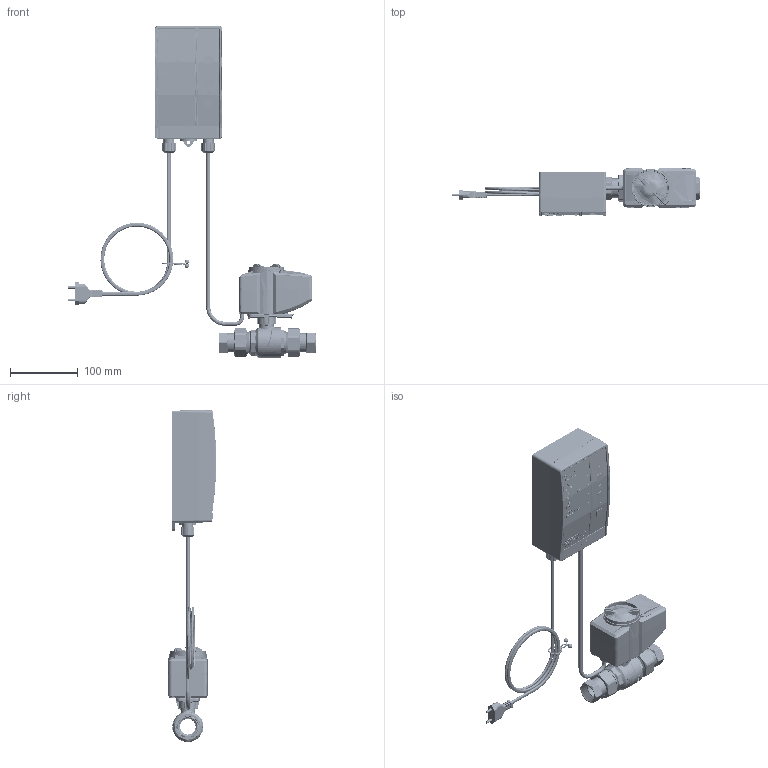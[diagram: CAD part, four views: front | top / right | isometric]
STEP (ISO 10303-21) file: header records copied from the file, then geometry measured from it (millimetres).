
FILE_DESCRIPTION (( 'STEP AP214' ), '1' );
FILE_NAME ('WATERCONTROL_System_detekcji_wycieku_42570_0_3D_AFRISO.STEP', '2024-03-18T08:47:16', ( '' ), ( '' ), 'SwSTEP 2.0', 'SolidWorks 2022', '' );
FILE_SCHEMA (( 'AUTOMOTIVE_DESIGN' ));
Length unit declared in the file: millimetre
Products named in the file (83): Tasten; Kugelhahn G1a_a WaterControl 01_05 09 000046; 18 05 000003_Folientastatur Signalteil selbstkl.; 3404-Prolunga-1DFx34F-Lavorata-L1605408; Teil_4; Teil_11; A; Flachstecker; ISO 7049-ST 2.2x4.5-C-H_907981 2245_0_2; Linsenkopfschraube _709 000 0006_0; Sfera-300-1-Lavorata-33208006; O-ring-3112-EPDM-N01C; Blindverschraubung NG 20 PS_685 000 0053; Frontschild WaterControl 01_09 03 010005_0; 05 09 000117_Verschraubung G3_4i x G1_X_DCM_2; Dichtring ID 9x11,8x7,5 f. PG-Einsatz M16x1,5_760 000 0113_0; 09 01 000002_Geh_X_E4use Oberteil Signalteil; Teil_7; Teil; _X_DCberwurfmutter M16x1,5_09 01 000012_0; Teil_8; Teil_12; ISO 7049-ST 2.2x4.5-C-H_907981 2245_0_4; Dichtring ID 9x11,5x7,5 f. PG-Einsatz M16x1,5_760 000 0113_0; Teil_16; frontschildbedruckung_Baugruppe; Teil_2; Asta-Nuova-Preassemblata-OR-2031-HNBR; AFRISO-LOGO_NEU_2012; 760 000 0163_Flachdichtung _X_F830x23x2 F 391; Teil_9; Klemmk_X_F6rper f. Kabelverschraubung M16x1,5_685 000 0047_0; Teil_13; LINSENBLECHSCHRAUBEN_2,2; 09 01 000010_Blende LAG 2006 mit AFRISO-Logo; Kabel; Corpo-Watchdog-1M-att-Motore-Lavorato; O-ring-2031-HNBR-52905700_2; WATERCONTROL_System_detekcji_wycieku_42570_0_3D_AFRISO; Teil_14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
Assembly tree (82 placements, depth 6):
  WATERCONTROL_System_detekcji_wycieku_42570_0_3D_AFRISO
    42570_WaterControl 01.1 G3_4
      _X_DCberwurfmutter M16x1,5_09 01 000012_0
      2x _X_DCberwurfmutter M16x1,5_09 01 000012_0
      Klemmk_X_F6rper f. Kabelverschraubung M16x1,5_685 000 0047_0
        Klemmk_X_F6rper f. Kabelverschraubung M16x1,5_685 000 0047_0
        Dichtring ID 9x11,8x7,5 f. PG-Einsatz M16x1,5_760 000 0113_0
      Klemmk_X_F6rper f. Kabelverschraubung M16x1,5_685 000 0047_0_2
        Klemmk_X_F6rper f. Kabelverschraubung M16x1,5_685 000 0047_0_2
        Dichtring ID 9x11,5x7,5 f. PG-Einsatz M16x1,5_760 000 0113_0
      LINSENBLECHSCHRAUBEN_3,5
        Linsenkopfschraube _709 000 0006_0
        Linsenkopfschraube 3,5x20 f. Kunststoffe_709 000 0006_0
      LINSENBLECHSCHRAUBEN_2,2
        ISO 7049-ST 2.2x4.5-C-H_907981 2245_0
        ISO 7049-ST 2.2x4.5-C-H_907981 2245_0_2
        ISO 7049-ST 2.2x4.5-C-H_907981 2245_0_3
        ISO 7049-ST 2.2x4.5-C-H_907981 2245_0_4
      O-Ring _X_F86,50x1,50mm NBR 70 _X_B15 IRHD_801 000 01_04_0
      Frontschild WaterControl 01_09 03 010005_0
        Frontschild WaterControl 01_09 03 010005_0
        frontschildbedruckung_Baugruppe
          Symbole
          watchdog
          schrift
      Gegenmutter M20x1,5 PA6 grau_685 000 0042
      Blindverschraubung NG 20 PS_685 000 0053
      18 05 000003_Folientastatur Signalteil selbstkl.
        18 05 000003_Folientastatur Signalteil selbstkl.
        Tasten
      09 01 000002_Geh_X_E4use Oberteil Signalteil
        09 01 000002_Geh_X_E4use Oberteil Signalteil
      09 01 000001_Geh_X_E4useunterteil LAG 2006
      09 01 000010_Blende LAG 2006 mit AFRISO-Logo
        09 01 000010_Blende LAG 2006 mit AFRISO-Logo
        AFRISO-LOGO_NEU_2012
          AFRISO-LOGO_NEU_2012
          A
      Watchdog-1-1Mx1M
        Motore-NVM03-con-Cavo-integrato
          Teil
          Teil_2
          Teil_3
          Teil_4
          Teil_5
          Teil_6
          Teil_7
          NONE
        Antrieb 24V WaterControl 01_05 00 000319
          Teil_8
          Teil_9
          Teil_10
          Teil_11
          Teil_12
          Teil_13
          Teil_14
        05 09 000117_Verschraubung G3_4i x G1_X_DCM
          3404-Prolunga-1DFx34F-Lavorata-L1605408
          Dado-1460- 1-Lavorato-31505460
          Teil_15
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Bounding box: 364.71 x 71.33 x 489.35 mm (x, y, z)
Volume: 337646.7 mm3; surface area: 370467.5 mm2
Topology: 175 solids, 183 shells, 12207 faces, 33221 edges, 21389 vertices
Faces by surface type: cylinder 6437, plane 3433, bspline 1570, cone 735, torus 32
Entity records: 563088 total; most frequent: CARTESIAN_POINT 228194, ORIENTED_EDGE 66126, DIRECTION 45482, EDGE_CURVE 33067, VERTEX_POINT 21385, AXIS2_PLACEMENT_3D 15557, VECTOR 14368, LINE 14368
